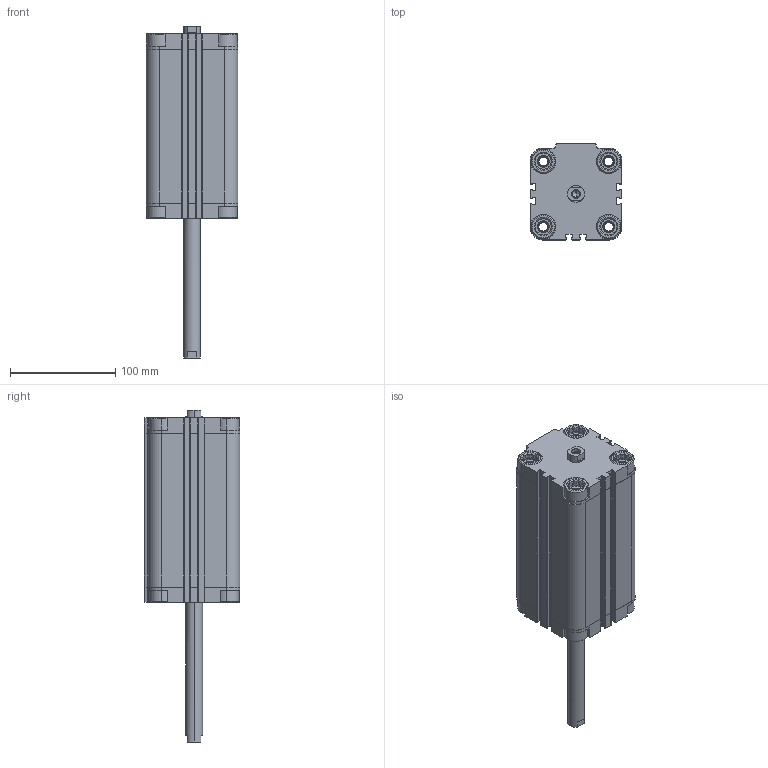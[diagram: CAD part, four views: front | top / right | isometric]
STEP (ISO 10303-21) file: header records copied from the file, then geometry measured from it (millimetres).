
FILE_DESCRIPTION (( 'STEP AP203' ), '1' );
FILE_NAME ('CDVU63-125F-P.STEP', '2020-07-24T18:39:04', ( '' ), ( '' ), 'SwSTEP 2.0', 'SolidWorks 2019', '' );
FILE_SCHEMA (( 'CONFIG_CONTROL_DESIGN' ));
Length unit declared in the file: millimetre
Products named in the file (1): CDVU63-125F-P
Bounding box: 87 x 91 x 315 mm (x, y, z)
Volume: 832182.5 mm3; surface area: 183622.3 mm2
Topology: 2 solids, 2 shells, 622 faces, 1668 edges, 1092 vertices
Faces by surface type: plane 370, cylinder 188, cone 64
Entity records: 19635 total; most frequent: CARTESIAN_POINT 3951, ORIENTED_EDGE 3320, DIRECTION 3170, EDGE_CURVE 1660, VERTEX_POINT 1092, AXIS2_PLACEMENT_3D 1079, LINE 1012, VECTOR 1012
